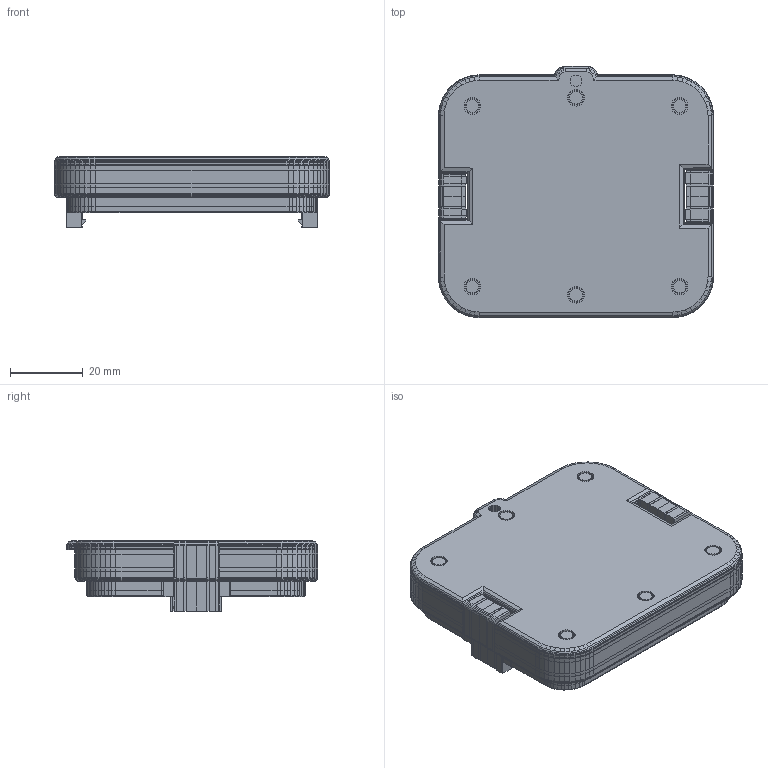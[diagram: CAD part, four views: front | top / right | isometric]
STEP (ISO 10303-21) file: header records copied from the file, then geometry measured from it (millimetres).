
FILE_DESCRIPTION(('AVO Performance Horse - montaje de la cincha (B-rep poliedrico)'),'2;1');
FILE_NAME('AVO_CINCHA_R6_9_CAPSULA','2026-11-15T12:00:00',('AVO Performance Horse'),('AVO Performance Horse'),'avo_cad.py','avo_cad.py (numpy)','');
FILE_SCHEMA(('AUTOMOTIVE_DESIGN { 1 0 10303 214 1 1 1 1 }'));
Length unit declared in the file: millimetre
Products named in the file (3): Capsula_impresa; Capsula_electronica; AVO_CINCHA_R6_9_CAPSULA
Assembly tree (2 placements, depth 2):
  AVO_CINCHA_R6_9_CAPSULA
    Capsula_impresa
    Capsula_electronica
Bounding box: 75.54 x 69.01 x 19.5 mm (x, y, z)
Volume: 61882.2 mm3; surface area: 47650.7 mm2
Topology: 138 solids, 138 shells, 11948 faces, 25890 edges, 14292 vertices
Faces by surface type: plane 11948
Entity records: 229188 total; most frequent: ORIENTED_EDGE 51916, VECTOR 25958, LINE 25958, EDGE_CURVE 25958, VERTEX_POINT 14368, CARTESIAN_POINT 14288, EDGE_LOOP 12094, AXIS2_PLACEMENT_3D 11950
